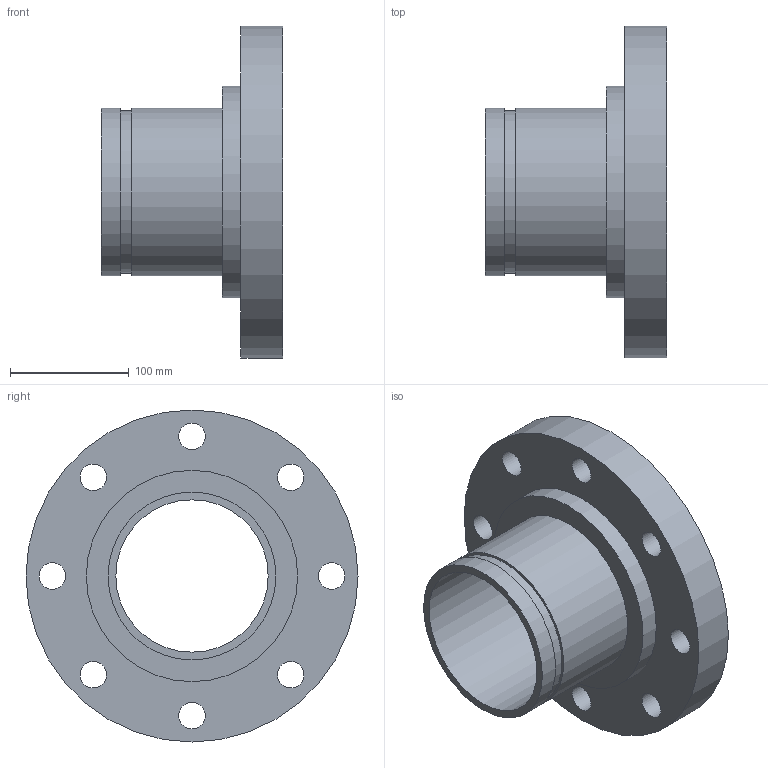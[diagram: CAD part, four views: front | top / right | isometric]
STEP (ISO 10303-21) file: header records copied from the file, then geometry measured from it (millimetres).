
FILE_DESCRIPTION(/* description */ ('VIC FLANGE ADAPTER No 46F','CAx-IF Rec.Pracs.---Representation and Presentation of Product Manufacturing Information (PMI)---4.0---2014-10-13'),/* implementation_level */ '2;1');
FILE_NAME(/* name */ 'C:\Users\kkamble\AppData\Roaming\Autodesk\ApplicationPlugins\Back Up\Victaulic_IPS_Flanged Adapter Nipple_CL 300 FF_No 46F (OGSxFLG)\Victaulic_IPS_Flanged Adapter Nipple_CL 300 FF_No 46F (OGSxFLG)_5 (125).stp',/* time_stamp */ '2020-07-26T22:24:57+06:00',/* author */ ('CONSTRUCTION PIPING SERVICES'),/* organization */ ('Victaulic'),/* preprocessor_version */ 'ST-DEVELOPER v17.2',/* originating_system */ 'Autodesk Inventor 2019',/* authorisation */ '');
FILE_SCHEMA (('AP242_MANAGED_MODEL_BASED_3D_ENGINEERING_MIM_LF { 1 0 10303 442 1 1 4 }'));
Length unit declared in the file: inch
Products named in the file (1): 046F-05.0
Bounding box: 152.4 x 279.4 x 279.4 mm (x, y, z)
Volume: 2047352.7 mm3; surface area: 258001.2 mm2
Topology: 1 solids, 1 shells, 20 faces, 54 edges, 40 vertices
Faces by surface type: cylinder 14, plane 6
Full cylindrical faces by diameter (mm): 22.352 x8, 128.194 x1, 137.033 x1, 141.3 x2, 177.8 x1, 279.4 x1
Entity records: 782 total; most frequent: DIRECTION 136, CARTESIAN_POINT 115, ORIENTED_EDGE 108, AXIS2_PLACEMENT_3D 61, EDGE_CURVE 54, EDGE_LOOP 42, CIRCLE 40, VERTEX_POINT 40
